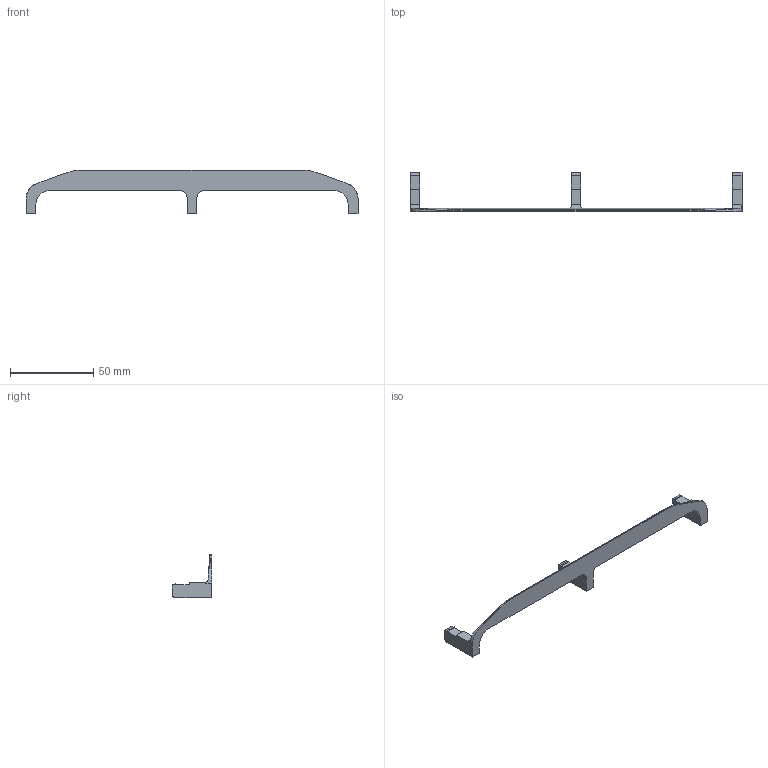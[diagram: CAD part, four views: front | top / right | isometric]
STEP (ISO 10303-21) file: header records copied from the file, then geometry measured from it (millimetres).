
FILE_DESCRIPTION(/* description */ ('Unknown'),/* implementation_level */ '2;1');
FILE_NAME(/* name */ 'g-activator',/* time_stamp */ '2025-01-20T13:42:23-06:00',/* author */ ('V Hubbard'),/* organization */ ('Hubbard Hobbies'),/* preprocessor_version */ 'ST-DEVELOPER v19.4',/* originating_system */ 'Solid Edge',/* authorisation */ 'Unknown');
FILE_SCHEMA (('AUTOMOTIVE_DESIGN {1 0 10303 214 3 1 1}'));
Length unit declared in the file: millimetre
Products named in the file (1): g-activator
Bounding box: 200 x 23.5 x 26.5 mm (x, y, z)
Volume: 7140.5 mm3; surface area: 7532.6 mm2
Topology: 1 solids, 1 shells, 57 faces, 161 edges, 106 vertices
Faces by surface type: plane 38, cylinder 17, bspline 2
Entity records: 1893 total; most frequent: CARTESIAN_POINT 367, ORIENTED_EDGE 322, DIRECTION 305, EDGE_CURVE 161, LINE 117, VECTOR 117, VERTEX_POINT 106, AXIS2_PLACEMENT_3D 94
